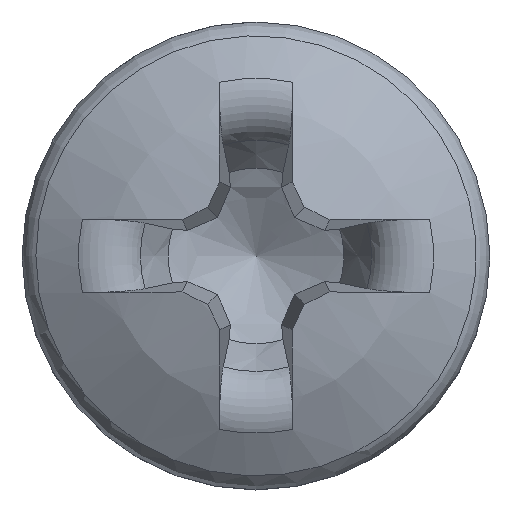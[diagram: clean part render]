
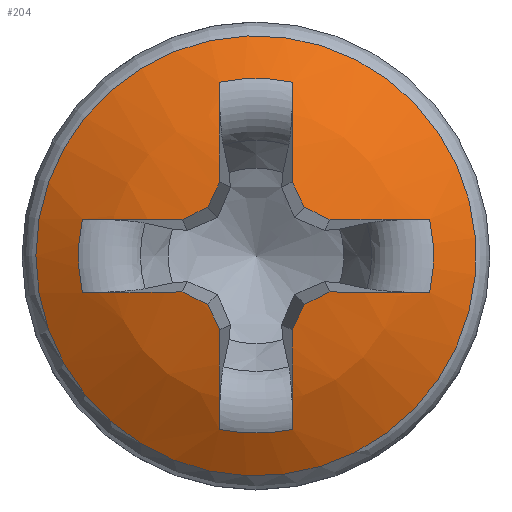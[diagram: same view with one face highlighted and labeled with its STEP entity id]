
A CAD part, top view. The second image highlights one B-rep face of the part: STEP entity #204.
In plain terms, the highlighted spherical face has radius 5.151 mm.
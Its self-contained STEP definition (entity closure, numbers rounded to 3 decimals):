
#167=SPHERICAL_SURFACE('',#1165,5.151);
#178=FACE_BOUND('',#337,.T.);
#179=FACE_BOUND('',#338,.T.);
#204=ADVANCED_FACE('',(#178,#179),#167,.T.);
#337=EDGE_LOOP('',(#481));
#338=EDGE_LOOP('',(#482,#483,#484,#485,#486,#487,#488,#489,#490,#491,#492,
#493,#494,#495,#496,#497,#498,#499,#500,#501));
#414=CIRCLE('',#1144,2.87);
#415=CIRCLE('',#1145,5.151);
#416=CIRCLE('',#1146,2.314);
#417=CIRCLE('',#1147,5.151);
#418=CIRCLE('',#1148,5.141);
#419=CIRCLE('',#1149,5.141);
#420=CIRCLE('',#1150,5.151);
#421=CIRCLE('',#1151,2.314);
#422=CIRCLE('',#1152,5.151);
#423=CIRCLE('',#1153,5.141);
#424=CIRCLE('',#1154,5.141);
#425=CIRCLE('',#1155,5.151);
#426=CIRCLE('',#1156,2.314);
#427=CIRCLE('',#1157,5.151);
#428=CIRCLE('',#1158,5.141);
#429=CIRCLE('',#1159,5.141);
#430=CIRCLE('',#1160,5.151);
#431=CIRCLE('',#1161,2.314);
#432=CIRCLE('',#1162,5.151);
#433=CIRCLE('',#1163,5.141);
#434=CIRCLE('',#1164,5.141);
#481=ORIENTED_EDGE('',*,*,#916,.T.);
#482=ORIENTED_EDGE('',*,*,#917,.F.);
#483=ORIENTED_EDGE('',*,*,#918,.T.);
#484=ORIENTED_EDGE('',*,*,#919,.F.);
#485=ORIENTED_EDGE('',*,*,#920,.F.);
#486=ORIENTED_EDGE('',*,*,#921,.F.);
#487=ORIENTED_EDGE('',*,*,#922,.F.);
#488=ORIENTED_EDGE('',*,*,#923,.T.);
#489=ORIENTED_EDGE('',*,*,#924,.F.);
#490=ORIENTED_EDGE('',*,*,#925,.F.);
#491=ORIENTED_EDGE('',*,*,#926,.F.);
#492=ORIENTED_EDGE('',*,*,#927,.F.);
#493=ORIENTED_EDGE('',*,*,#928,.T.);
#494=ORIENTED_EDGE('',*,*,#929,.F.);
#495=ORIENTED_EDGE('',*,*,#930,.F.);
#496=ORIENTED_EDGE('',*,*,#931,.F.);
#497=ORIENTED_EDGE('',*,*,#932,.F.);
#498=ORIENTED_EDGE('',*,*,#933,.T.);
#499=ORIENTED_EDGE('',*,*,#934,.F.);
#500=ORIENTED_EDGE('',*,*,#935,.F.);
#501=ORIENTED_EDGE('',*,*,#936,.F.);
#807=VERTEX_POINT('',#2524);
#808=VERTEX_POINT('',#2526);
#809=VERTEX_POINT('',#2527);
#810=VERTEX_POINT('',#2529);
#811=VERTEX_POINT('',#2531);
#812=VERTEX_POINT('',#2533);
#813=VERTEX_POINT('',#2535);
#814=VERTEX_POINT('',#2537);
#815=VERTEX_POINT('',#2539);
#816=VERTEX_POINT('',#2541);
#817=VERTEX_POINT('',#2543);
#818=VERTEX_POINT('',#2545);
#819=VERTEX_POINT('',#2547);
#820=VERTEX_POINT('',#2549);
#821=VERTEX_POINT('',#2551);
#822=VERTEX_POINT('',#2553);
#823=VERTEX_POINT('',#2555);
#824=VERTEX_POINT('',#2557);
#825=VERTEX_POINT('',#2559);
#826=VERTEX_POINT('',#2561);
#827=VERTEX_POINT('',#2563);
#916=EDGE_CURVE('',#807,#807,#414,.T.);
#917=EDGE_CURVE('',#808,#809,#415,.T.);
#918=EDGE_CURVE('',#808,#810,#416,.T.);
#919=EDGE_CURVE('',#811,#810,#417,.T.);
#920=EDGE_CURVE('',#812,#811,#418,.T.);
#921=EDGE_CURVE('',#813,#812,#419,.T.);
#922=EDGE_CURVE('',#814,#813,#420,.T.);
#923=EDGE_CURVE('',#814,#815,#421,.T.);
#924=EDGE_CURVE('',#816,#815,#422,.T.);
#925=EDGE_CURVE('',#817,#816,#423,.T.);
#926=EDGE_CURVE('',#818,#817,#424,.T.);
#927=EDGE_CURVE('',#819,#818,#425,.T.);
#928=EDGE_CURVE('',#819,#820,#426,.T.);
#929=EDGE_CURVE('',#821,#820,#427,.T.);
#930=EDGE_CURVE('',#822,#821,#428,.T.);
#931=EDGE_CURVE('',#823,#822,#429,.T.);
#932=EDGE_CURVE('',#824,#823,#430,.T.);
#933=EDGE_CURVE('',#824,#825,#431,.T.);
#934=EDGE_CURVE('',#826,#825,#432,.T.);
#935=EDGE_CURVE('',#827,#826,#433,.T.);
#936=EDGE_CURVE('',#809,#827,#434,.T.);
#1144=AXIS2_PLACEMENT_3D('',#2523,#1229,#1230);
#1145=AXIS2_PLACEMENT_3D('',#2525,#1231,#1232);
#1146=AXIS2_PLACEMENT_3D('',#2528,#1233,#1234);
#1147=AXIS2_PLACEMENT_3D('',#2530,#1235,#1236);
#1148=AXIS2_PLACEMENT_3D('',#2532,#1237,#1238);
#1149=AXIS2_PLACEMENT_3D('',#2534,#1239,#1240);
#1150=AXIS2_PLACEMENT_3D('',#2536,#1241,#1242);
#1151=AXIS2_PLACEMENT_3D('',#2538,#1243,#1244);
#1152=AXIS2_PLACEMENT_3D('',#2540,#1245,#1246);
#1153=AXIS2_PLACEMENT_3D('',#2542,#1247,#1248);
#1154=AXIS2_PLACEMENT_3D('',#2544,#1249,#1250);
#1155=AXIS2_PLACEMENT_3D('',#2546,#1251,#1252);
#1156=AXIS2_PLACEMENT_3D('',#2548,#1253,#1254);
#1157=AXIS2_PLACEMENT_3D('',#2550,#1255,#1256);
#1158=AXIS2_PLACEMENT_3D('',#2552,#1257,#1258);
#1159=AXIS2_PLACEMENT_3D('',#2554,#1259,#1260);
#1160=AXIS2_PLACEMENT_3D('',#2556,#1261,#1262);
#1161=AXIS2_PLACEMENT_3D('',#2558,#1263,#1264);
#1162=AXIS2_PLACEMENT_3D('',#2560,#1265,#1266);
#1163=AXIS2_PLACEMENT_3D('',#2562,#1267,#1268);
#1164=AXIS2_PLACEMENT_3D('',#2564,#1269,#1270);
#1165=AXIS2_PLACEMENT_3D('',#2565,#1271,#1272);
#1229=DIRECTION('',(0.,0.,1.));
#1230=DIRECTION('',(-1.,0.,0.));
#1231=DIRECTION('',(-0.035,0.996,0.087));
#1232=DIRECTION('',(0.,-0.087,0.996));
#1233=DIRECTION('',(0.,0.,-1.));
#1234=DIRECTION('',(-1.,0.,0.));
#1235=DIRECTION('',(-0.035,-0.996,0.087));
#1236=DIRECTION('',(0.,-0.087,-0.996));
#1237=DIRECTION('',(0.42,-0.902,0.1));
#1238=DIRECTION('',(0.906,0.423,0.));
#1239=DIRECTION('',(0.902,-0.42,0.1));
#1240=DIRECTION('',(0.423,0.906,0.));
#1241=DIRECTION('',(0.996,0.035,0.087));
#1242=DIRECTION('',(0.087,0.,-0.996));
#1243=DIRECTION('',(0.,0.,-1.));
#1244=DIRECTION('',(-1.,0.,0.));
#1245=DIRECTION('',(-0.996,0.035,0.087));
#1246=DIRECTION('',(0.087,0.,0.996));
#1247=DIRECTION('',(-0.902,-0.42,0.1));
#1248=DIRECTION('',(0.423,-0.906,0.));
#1249=DIRECTION('',(-0.42,-0.902,0.1));
#1250=DIRECTION('',(0.906,-0.423,0.));
#1251=DIRECTION('',(0.035,-0.996,0.087));
#1252=DIRECTION('',(0.,-0.087,-0.996));
#1253=DIRECTION('',(0.,0.,-1.));
#1254=DIRECTION('',(-1.,0.,0.));
#1255=DIRECTION('',(0.035,0.996,0.087));
#1256=DIRECTION('',(0.,-0.087,0.996));
#1257=DIRECTION('',(-0.42,0.902,0.1));
#1258=DIRECTION('',(-0.906,-0.423,0.));
#1259=DIRECTION('',(-0.902,0.42,0.1));
#1260=DIRECTION('',(-0.423,-0.906,0.));
#1261=DIRECTION('',(-0.996,-0.035,0.087));
#1262=DIRECTION('',(0.087,0.,0.996));
#1263=DIRECTION('',(0.,0.,-1.));
#1264=DIRECTION('',(-1.,0.,0.));
#1265=DIRECTION('',(0.996,-0.035,0.087));
#1266=DIRECTION('',(0.087,0.,-0.996));
#1267=DIRECTION('',(0.902,0.42,0.1));
#1268=DIRECTION('',(-0.423,0.906,0.));
#1269=DIRECTION('',(0.42,0.902,0.1));
#1270=DIRECTION('',(-0.906,0.423,0.));
#1271=DIRECTION('',(0.,0.,1.));
#1272=DIRECTION('',(0.,1.,0.));
#2523=CARTESIAN_POINT('',(0.,0.,1.626));
#2524=CARTESIAN_POINT('',(-2.87,0.,1.626));
#2525=CARTESIAN_POINT('',(0.,0.004,-2.651));
#2526=CARTESIAN_POINT('',(-2.264,-0.478,1.951));
#2527=CARTESIAN_POINT('',(-0.965,-0.471,2.387));
#2528=CARTESIAN_POINT('',(0.,0.,1.951));
#2529=CARTESIAN_POINT('',(-2.264,0.478,1.951));
#2530=CARTESIAN_POINT('',(0.,-0.004,-2.651));
#2531=CARTESIAN_POINT('',(-0.965,0.471,2.387));
#2532=CARTESIAN_POINT('',(-0.137,0.294,-2.684));
#2533=CARTESIAN_POINT('',(-0.631,0.631,2.422));
#2534=CARTESIAN_POINT('',(-0.294,0.137,-2.684));
#2535=CARTESIAN_POINT('',(-0.471,0.965,2.387));
#2536=CARTESIAN_POINT('',(0.004,0.,-2.651));
#2537=CARTESIAN_POINT('',(-0.478,2.264,1.951));
#2538=CARTESIAN_POINT('',(0.,0.,1.951));
#2539=CARTESIAN_POINT('',(0.478,2.264,1.951));
#2540=CARTESIAN_POINT('',(-0.004,0.,-2.651));
#2541=CARTESIAN_POINT('',(0.471,0.965,2.387));
#2542=CARTESIAN_POINT('',(0.294,0.137,-2.684));
#2543=CARTESIAN_POINT('',(0.631,0.631,2.422));
#2544=CARTESIAN_POINT('',(0.137,0.294,-2.684));
#2545=CARTESIAN_POINT('',(0.965,0.471,2.387));
#2546=CARTESIAN_POINT('',(0.,-0.004,-2.651));
#2547=CARTESIAN_POINT('',(2.264,0.478,1.951));
#2548=CARTESIAN_POINT('',(0.,0.,1.951));
#2549=CARTESIAN_POINT('',(2.264,-0.478,1.951));
#2550=CARTESIAN_POINT('',(0.,0.004,-2.651));
#2551=CARTESIAN_POINT('',(0.965,-0.471,2.387));
#2552=CARTESIAN_POINT('',(0.137,-0.294,-2.684));
#2553=CARTESIAN_POINT('',(0.631,-0.631,2.422));
#2554=CARTESIAN_POINT('',(0.294,-0.137,-2.684));
#2555=CARTESIAN_POINT('',(0.471,-0.965,2.387));
#2556=CARTESIAN_POINT('',(-0.004,0.,-2.651));
#2557=CARTESIAN_POINT('',(0.478,-2.264,1.951));
#2558=CARTESIAN_POINT('',(0.,0.,1.951));
#2559=CARTESIAN_POINT('',(-0.478,-2.264,1.951));
#2560=CARTESIAN_POINT('',(0.004,0.,-2.651));
#2561=CARTESIAN_POINT('',(-0.471,-0.965,2.387));
#2562=CARTESIAN_POINT('',(-0.294,-0.137,-2.684));
#2563=CARTESIAN_POINT('',(-0.631,-0.631,2.422));
#2564=CARTESIAN_POINT('',(-0.137,-0.294,-2.684));
#2565=CARTESIAN_POINT('',(0.,0.,-2.651));
